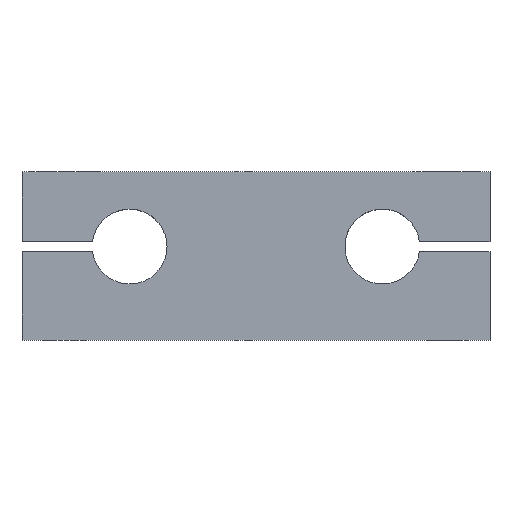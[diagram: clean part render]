
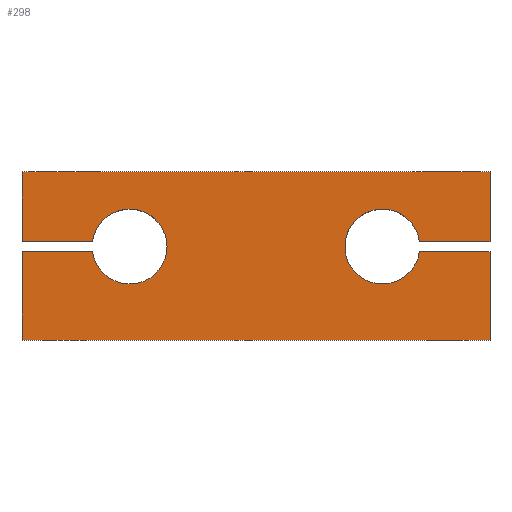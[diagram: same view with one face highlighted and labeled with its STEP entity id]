
A CAD part, top view. The second image highlights one B-rep face of the part: STEP entity #298.
In plain terms, the highlighted planar face has unit normal (0, 0, 1).
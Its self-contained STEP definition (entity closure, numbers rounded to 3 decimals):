
#2 = CARTESIAN_POINT ( 'NONE',  ( -50., 3.075, 9. ) ) ;
#3 = EDGE_CURVE ( 'NONE', #223, #536, #373, .T. ) ;
#6 = LINE ( 'NONE', #363, #998 ) ;
#24 = EDGE_CURVE ( 'NONE', #764, #992, #165, .T. ) ;
#28 = VECTOR ( 'NONE', #161, 1000. ) ;
#39 = EDGE_CURVE ( 'NONE', #820, #764, #950, .T. ) ;
#63 = CARTESIAN_POINT ( 'NONE',  ( -50., 3.075, 9. ) ) ;
#94 = CARTESIAN_POINT ( 'NONE',  ( -50., -18., 9. ) ) ;
#111 = LINE ( 'NONE', #604, #28 ) ;
#138 = LINE ( 'NONE', #63, #429 ) ;
#152 = AXIS2_PLACEMENT_3D ( 'NONE', #564, #719, #468 ) ;
#161 = DIRECTION ( 'NONE',  ( 1., 0., 0. ) ) ;
#164 = ORIENTED_EDGE ( 'NONE', *, *, #828, .F. ) ;
#165 = LINE ( 'NONE', #674, #696 ) ;
#167 = DIRECTION ( 'NONE',  ( 1., 0., 0. ) ) ;
#182 = DIRECTION ( 'NONE',  ( 1., 0., 0. ) ) ;
#192 = ORIENTED_EDGE ( 'NONE', *, *, #981, .F. ) ;
#208 = VECTOR ( 'NONE', #761, 1000. ) ;
#223 = VERTEX_POINT ( 'NONE', #294 ) ;
#226 = VERTEX_POINT ( 'NONE', #692 ) ;
#236 = FACE_OUTER_BOUND ( 'NONE', #787, .T. ) ;
#245 = DIRECTION ( 'NONE',  ( -1., 0., 0. ) ) ;
#260 = EDGE_CURVE ( 'NONE', #226, #968, #879, .T. ) ;
#271 = DIRECTION ( 'NONE',  ( -1., 0., 0. ) ) ;
#294 = CARTESIAN_POINT ( 'NONE',  ( -19., 2., 9. ) ) ;
#298 = ADVANCED_FACE ( 'NONE', ( #236 ), #390, .T. ) ;
#320 = EDGE_CURVE ( 'NONE', #1025, #223, #848, .T. ) ;
#347 = CARTESIAN_POINT ( 'NONE',  ( 50., 0.925, 9. ) ) ;
#359 = CARTESIAN_POINT ( 'NONE',  ( -27., 2., 9. ) ) ;
#363 = CARTESIAN_POINT ( 'NONE',  ( -50., 18., 9. ) ) ;
#367 = ORIENTED_EDGE ( 'NONE', *, *, #686, .T. ) ;
#373 = CIRCLE ( 'NONE', #593, 8. ) ;
#376 = ORIENTED_EDGE ( 'NONE', *, *, #873, .T. ) ;
#382 = VERTEX_POINT ( 'NONE', #736 ) ;
#390 = PLANE ( 'NONE',  #152 ) ;
#398 = ORIENTED_EDGE ( 'NONE', *, *, #734, .F. ) ;
#429 = VECTOR ( 'NONE', #245, 1000. ) ;
#446 = LINE ( 'NONE', #869, #681 ) ;
#468 = DIRECTION ( 'NONE',  ( 1., 0., 0. ) ) ;
#470 = ORIENTED_EDGE ( 'NONE', *, *, #945, .F. ) ;
#504 = ORIENTED_EDGE ( 'NONE', *, *, #1088, .F. ) ;
#513 = CARTESIAN_POINT ( 'NONE',  ( 34.927, 0.925, 9. ) ) ;
#527 = CARTESIAN_POINT ( 'NONE',  ( -50., 18., 9. ) ) ;
#536 = VERTEX_POINT ( 'NONE', #883 ) ;
#538 = ORIENTED_EDGE ( 'NONE', *, *, #39, .T. ) ;
#544 = CIRCLE ( 'NONE', #775, 8. ) ;
#561 = VECTOR ( 'NONE', #1105, 1000. ) ;
#564 = CARTESIAN_POINT ( 'NONE',  ( 0., 0., 9. ) ) ;
#569 = DIRECTION ( 'NONE',  ( 0., 0., 1. ) ) ;
#570 = ORIENTED_EDGE ( 'NONE', *, *, #24, .T. ) ;
#577 = VECTOR ( 'NONE', #271, 1000. ) ;
#587 = CARTESIAN_POINT ( 'NONE',  ( -50., -18., 9. ) ) ;
#592 = VERTEX_POINT ( 'NONE', #792 ) ;
#593 = AXIS2_PLACEMENT_3D ( 'NONE', #359, #1115, #182 ) ;
#600 = LINE ( 'NONE', #857, #561 ) ;
#604 = CARTESIAN_POINT ( 'NONE',  ( -50., 0.925, 9. ) ) ;
#609 = AXIS2_PLACEMENT_3D ( 'NONE', #1072, #569, #644 ) ;
#625 = ORIENTED_EDGE ( 'NONE', *, *, #260, .T. ) ;
#638 = CARTESIAN_POINT ( 'NONE',  ( 34.927, 3.075, 9. ) ) ;
#644 = DIRECTION ( 'NONE',  ( 1., 0., 0. ) ) ;
#666 = LINE ( 'NONE', #672, #577 ) ;
#672 = CARTESIAN_POINT ( 'NONE',  ( 26., 3.075, 9. ) ) ;
#674 = CARTESIAN_POINT ( 'NONE',  ( 50., 18., 9. ) ) ;
#681 = VECTOR ( 'NONE', #953, 1000. ) ;
#686 = EDGE_CURVE ( 'NONE', #592, #226, #1094, .T. ) ;
#692 = CARTESIAN_POINT ( 'NONE',  ( 50., 18., 9. ) ) ;
#696 = VECTOR ( 'NONE', #940, 1000. ) ;
#700 = CARTESIAN_POINT ( 'NONE',  ( -50., 18., 9. ) ) ;
#712 = DIRECTION ( 'NONE',  ( -1., 0., 0. ) ) ;
#719 = DIRECTION ( 'NONE',  ( 0., 0., 1. ) ) ;
#721 = VERTEX_POINT ( 'NONE', #638 ) ;
#725 = ORIENTED_EDGE ( 'NONE', *, *, #3, .F. ) ;
#734 = EDGE_CURVE ( 'NONE', #536, #871, #138, .T. ) ;
#736 = CARTESIAN_POINT ( 'NONE',  ( -50., 0.925, 9. ) ) ;
#739 = VECTOR ( 'NONE', #822, 1000. ) ;
#753 = ORIENTED_EDGE ( 'NONE', *, *, #320, .F. ) ;
#761 = DIRECTION ( 'NONE',  ( 1., 0., 0. ) ) ;
#764 = VERTEX_POINT ( 'NONE', #1007 ) ;
#770 = VECTOR ( 'NONE', #712, 1000. ) ;
#775 = AXIS2_PLACEMENT_3D ( 'NONE', #821, #826, #167 ) ;
#781 = EDGE_CURVE ( 'NONE', #968, #871, #600, .T. ) ;
#787 = EDGE_LOOP ( 'NONE', ( #398, #725, #753, #192, #376, #538, #570, #470, #504, #164, #367, #625, #1079 ) ) ;
#792 = CARTESIAN_POINT ( 'NONE',  ( 50., 3.075, 9. ) ) ;
#795 = VERTEX_POINT ( 'NONE', #513 ) ;
#820 = VERTEX_POINT ( 'NONE', #94 ) ;
#821 = CARTESIAN_POINT ( 'NONE',  ( 27., 2., 9. ) ) ;
#822 = DIRECTION ( 'NONE',  ( 0., 1., 0. ) ) ;
#826 = DIRECTION ( 'NONE',  ( 0., 0., 1. ) ) ;
#828 = EDGE_CURVE ( 'NONE', #592, #721, #666, .T. ) ;
#836 = CARTESIAN_POINT ( 'NONE',  ( 50., 18., 9. ) ) ;
#848 = CIRCLE ( 'NONE', #609, 8. ) ;
#857 = CARTESIAN_POINT ( 'NONE',  ( -50., 18., 9. ) ) ;
#869 = CARTESIAN_POINT ( 'NONE',  ( 26., 0.925, 9. ) ) ;
#871 = VERTEX_POINT ( 'NONE', #2 ) ;
#873 = EDGE_CURVE ( 'NONE', #382, #820, #6, .T. ) ;
#879 = LINE ( 'NONE', #700, #770 ) ;
#883 = CARTESIAN_POINT ( 'NONE',  ( -34.927, 3.075, 9. ) ) ;
#923 = CARTESIAN_POINT ( 'NONE',  ( -34.927, 0.925, 9. ) ) ;
#940 = DIRECTION ( 'NONE',  ( 0., 1., 0. ) ) ;
#945 = EDGE_CURVE ( 'NONE', #795, #992, #446, .T. ) ;
#950 = LINE ( 'NONE', #587, #208 ) ;
#953 = DIRECTION ( 'NONE',  ( 1., 0., 0. ) ) ;
#968 = VERTEX_POINT ( 'NONE', #527 ) ;
#981 = EDGE_CURVE ( 'NONE', #382, #1025, #111, .T. ) ;
#992 = VERTEX_POINT ( 'NONE', #347 ) ;
#998 = VECTOR ( 'NONE', #1041, 1000. ) ;
#1007 = CARTESIAN_POINT ( 'NONE',  ( 50., -18., 9. ) ) ;
#1025 = VERTEX_POINT ( 'NONE', #923 ) ;
#1041 = DIRECTION ( 'NONE',  ( 0., -1., 0. ) ) ;
#1072 = CARTESIAN_POINT ( 'NONE',  ( -27., 2., 9. ) ) ;
#1079 = ORIENTED_EDGE ( 'NONE', *, *, #781, .T. ) ;
#1088 = EDGE_CURVE ( 'NONE', #721, #795, #544, .T. ) ;
#1094 = LINE ( 'NONE', #836, #739 ) ;
#1105 = DIRECTION ( 'NONE',  ( 0., -1., 0. ) ) ;
#1115 = DIRECTION ( 'NONE',  ( 0., 0., 1. ) ) ;
